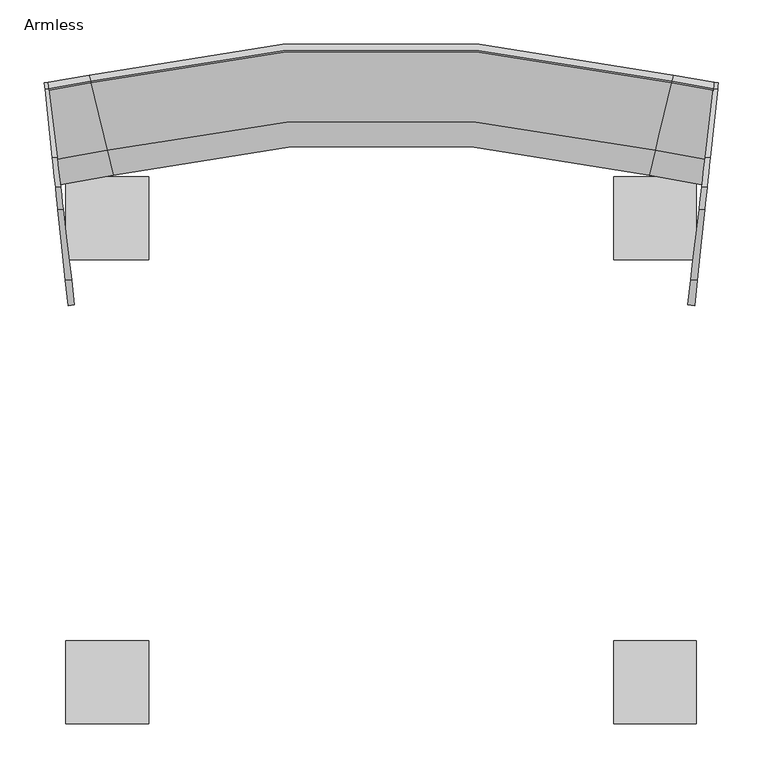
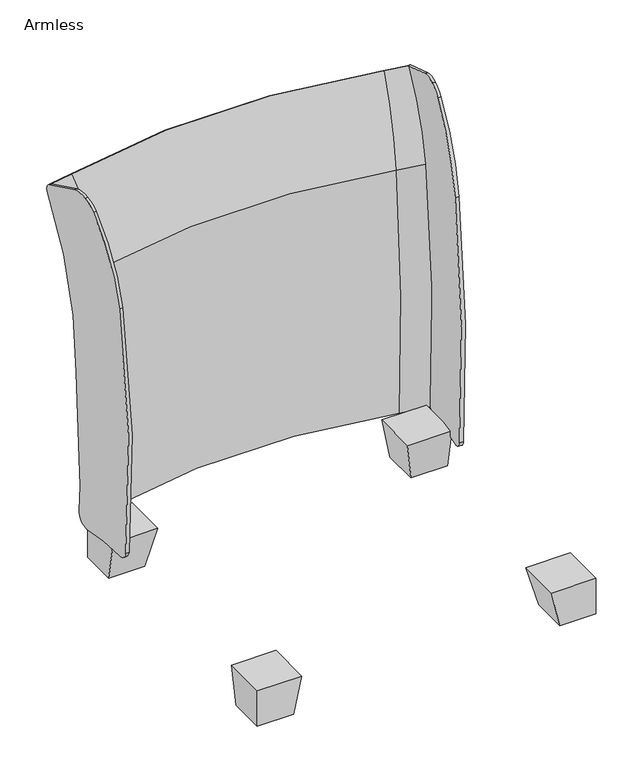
"""IFC4 building model written with IfcOpenShell, lengths in millimetres: furniture geometry, Steelcase Turnstone - Jenny - Seating - Lounge Chair : Armless."""

from ifc_helpers import new_model, si_unit, point, frame, frame_2d, origin, origin_with_axes, place, context, project, spatial, polyline, circle_curve, ellipse_curve, trimmed, segment, composite_curve, outline, extrude, faceted_brep, source, transform, mapped, element, save
from ifc_brep_helpers import plane_surface, revolved_surface, advanced_brep


def armless_b418ea1e(model_context):
    return source(origin(), model_context, "Body", "SolidModel", [
        extrude(outline(composite_curve([segment(trimmed(circle_curve(frame_2d((-317.4695755, 631.5743694)), 14.4058816), [point((-317.4695755, 645.9802509))], [point((-317.4695755, 617.1684878))], False, "CARTESIAN"), True, "CONTINUOUS"), segment(trimmed(circle_curve(frame_2d((-317.4695755, 631.5743694)), 14.4058816), [point((-317.4695755, 617.1684878))], [point((-317.4695755, 645.9802509))], False, "CARTESIAN"), True, "CONTINUOUS")], self_intersect=False)), origin_with_axes(), (0.0, 0.0, 1.0), 7.083069),
        extrude(outline(composite_curve([segment(trimmed(circle_curve(frame_2d((318.3480103, 631.2568742)), 14.4535487), [point((318.3480103, 645.7104229))], [point((318.3480103, 616.8033255))], False, "CARTESIAN"), True, "CONTINUOUS"), segment(trimmed(circle_curve(frame_2d((318.3480103, 631.2568742)), 14.4535487), [point((318.3480103, 616.8033255))], [point((318.3480103, 645.7104229))], False, "CARTESIAN"), True, "CONTINUOUS")], self_intersect=False)), origin_with_axes(), (0.0, 0.0, 1.0), 7.083069),
        faceted_brep([(279.1777267, 593.0641473, 7.083069), (279.1777267, 669.2641473, 7.083069), (355.3777267, 669.2641473, 7.083069), (355.3777267, 593.0641473, 7.083069), (261.9561035, 575.8429601, 95.4116322), (355.3777267, 575.8429601, 95.4116322), (355.3777267, 669.2641473, 95.4116322), (261.9561035, 669.2641473, 95.4116322)], [[[0, 1, 2, 3]], [[4, 5, 6, 7]], [[4, 7, 1, 0]], [[7, 6, 2, 1]], [[6, 5, 3, 2]], [[5, 4, 0, 3]]]),
        faceted_brep([(-279.1777267, 593.0641473, 7.083069), (-355.3777267, 593.0641473, 7.083069), (-355.3777267, 669.2641473, 7.083069), (-279.1777267, 669.2641473, 7.083069), (-261.9561035, 575.8429601, 95.4116322), (-261.9561035, 669.2641473, 95.4116322), (-355.3777267, 669.2641473, 95.4116322), (-355.3777267, 575.8429601, 95.4116322)], [[[0, 1, 2, 3]], [[4, 5, 6, 7]], [[4, 7, 1, 0]], [[7, 6, 2, 1]], [[6, 5, 3, 2]], [[5, 4, 0, 3]]]),
        extrude(outline(composite_curve([segment(trimmed(circle_curve(frame_2d((-317.4695755, 90.6150358)), 14.4058816), [point((-317.4695755, 76.2091543))], [point((-317.4695755, 105.0209174))], False, "CARTESIAN"), True, "CONTINUOUS"), segment(trimmed(circle_curve(frame_2d((-317.4695755, 90.6150358)), 14.4058816), [point((-317.4695755, 105.0209174))], [point((-317.4695755, 76.2091543))], False, "CARTESIAN"), True, "CONTINUOUS")], self_intersect=False)), origin_with_axes(), (0.0, 0.0, 1.0), 7.083069),
        extrude(outline(composite_curve([segment(trimmed(circle_curve(frame_2d((318.3480103, 90.932531)), 14.4535487), [point((318.3480103, 76.4789822))], [point((318.3480103, 105.3860797))], False, "CARTESIAN"), True, "CONTINUOUS"), segment(trimmed(circle_curve(frame_2d((318.3480103, 90.932531)), 14.4535487), [point((318.3480103, 105.3860797))], [point((318.3480103, 76.4789822))], False, "CARTESIAN"), True, "CONTINUOUS")], self_intersect=False)), origin_with_axes(), (0.0, 0.0, 1.0), 7.083069),
        faceted_brep([(279.1777267, 129.1252579, 7.083069), (355.3777267, 129.1252579, 7.083069), (355.3777267, 52.9252579, 7.083069), (279.1777267, 52.9252579, 7.083069), (261.9561035, 146.3464451, 85.2737648), (261.9561035, 52.9252579, 85.2737648), (355.3777267, 52.9252579, 85.2737648), (355.3777267, 146.3464451, 85.2737648)], [[[0, 1, 2, 3]], [[4, 5, 6, 7]], [[4, 7, 1, 0]], [[7, 6, 2, 1]], [[6, 5, 3, 2]], [[5, 4, 0, 3]]]),
        faceted_brep([(-279.1777267, 129.1252579, 7.083069), (-279.1777267, 52.9252579, 7.083069), (-355.3777267, 52.9252579, 7.083069), (-355.3777267, 129.1252579, 7.083069), (-261.9561035, 146.3464451, 85.2737648), (-355.3777267, 146.3464451, 85.2737648), (-355.3777267, 52.9252579, 85.2737648), (-261.9561035, 52.9252579, 85.2737648)], [[[0, 1, 2, 3]], [[4, 5, 6, 7]], [[4, 7, 1, 0]], [[7, 6, 2, 1]], [[6, 5, 3, 2]], [[5, 4, 0, 3]]]),
        advanced_brep(
        [(-365.0328558, 688.9118721, 614.3798536), (-374.2086501, 766.5758751, 782.0850534), (-374.4577532, 768.6842856, 781.0193185), (-375.0846857, 773.9906478, 763.3929272), (-364.7240839, 686.2984239, 412.1857232), (-363.5844919, 676.6529077, 226.5942002), (-363.549176, 676.3539931, 111.3923483), (-362.6401057, 668.6596146, 90.0869227), (-327.0674538, 775.0009474, 782.0850534), (-308.774252, 698.9664071, 614.3798536), (-327.5640748, 777.0651215, 781.0193185), (-328.8139506, 782.2601513, 763.3929272), (-308.1586729, 696.4077914, 412.1857232), (-305.8867403, 686.964647, 226.5942002), (-305.8163331, 686.6720039, 111.3923483), (-304.0039772, 679.1390607, 90.0869227), (327.0674538, 775.0009474, 782.0850534), (308.774252, 698.9664071, 614.3798536), (327.5640748, 777.0651215, 781.0193185), (328.8139506, 782.2601513, 763.3929272), (308.1586729, 696.4077914, 412.1857232), (305.8867403, 686.964647, 226.5942002), (305.8163331, 686.6720039, 111.3923483), (304.0039772, 679.1390607, 90.0869227), (365.0328558, 688.9118721, 614.3798536), (362.6401057, 668.6596146, 90.0869227), (363.549176, 676.3539931, 111.3923483), (363.5844919, 676.6529077, 226.5942002), (364.7240839, 686.2984239, 412.1857232), (375.0846857, 773.9906478, 763.3929272), (374.4577532, 768.6842856, 781.0193185), (374.2086501, 766.5758751, 782.0850534)],
        [
            (0, 1, circle_curve(frame((-406.9820142, 1043.9699138, 549.7445151), z_axis=(-0.9930928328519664, -0.11733126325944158, 0.0), x_axis=(-0.11733126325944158, 0.9930928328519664, 0.0)), 363.3230957)),
            (1, 2),
            (2, 3, circle_curve(frame((-373.7892515, 763.0260816, 769.6690835), z_axis=(-0.9930928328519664, -0.11733126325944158, 0.0), x_axis=(-0.11733126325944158, 0.9930928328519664, 0.0)), 12.7)),
            (3, 4, circle_curve(frame((-444.1840732, 1358.8484643, 428.618251), z_axis=(0.9930928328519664, 0.11733126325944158, 0.0), x_axis=(-0.11733126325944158, 0.9930928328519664, 0.0)), 677.4270991)),
            (4, 5, circle_curve(frame((-222.1914301, -520.0991972, 382.7096079), z_axis=(-0.9930928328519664, -0.11733126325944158, 0.0), x_axis=(-0.11733126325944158, 0.9930928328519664, 0.0)), 1215.145925)),
            (5, 6, circle_curve(frame((-416.8275775, 1127.3028473, 167.8072561), z_axis=(0.9930928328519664, 0.11733126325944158, 0.0), x_axis=(-0.11733126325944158, 0.9930928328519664, 0.0)), 457.5763313)),
            (6, 7, circle_curve(frame((-360.6485798, 651.8033223, 108.3209937), z_axis=(-0.9930928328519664, -0.11733126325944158, 0.0), x_axis=(-0.11733126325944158, 0.9930928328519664, 0.0)), 24.9114856)),
            (7, 0, circle_curve(frame((-582.1375659, 2526.4880272, 279.8645269), z_axis=(-0.9930928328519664, -0.11733126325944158, 0.0), x_axis=(-0.11733126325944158, 0.9930928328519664, 0.0)), 1880.3513194)),
            (8, 1, circle_curve(frame((-421.6517332, 1168.1345426, 782.0850534), z_axis=(0.0, 0.0, -1.0), x_axis=(0.1173312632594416, -0.9930928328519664, 0.0)), 404.3515915)),
            (0, 9, circle_curve(frame((-421.6517332, 1168.1345426, 614.3798536), z_axis=(0.0, 0.0, 1.0), x_axis=(0.1173312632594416, -0.9930928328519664, 0.0)), 482.5557637)),
            (9, 8, circle_curve(frame((-392.4056407, 1046.5750026, 549.7445151), z_axis=(-0.9722568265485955, -0.2339159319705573, 0.0), x_axis=(-0.2339159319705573, 0.9722568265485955, 0.0)), 363.3230957)),
            (10, 2, circle_curve(frame((-421.6517332, 1168.1345426, 781.0193185), z_axis=(0.0, 0.0, -1.0), x_axis=(0.1173312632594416, -0.9930928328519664, 0.0)), 402.2285166)),
            (8, 10),
            (11, 3, circle_curve(frame((-421.6517332, 1168.1345426, 763.3929272), z_axis=(0.0, 0.0, -1.0), x_axis=(0.1173312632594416, -0.9930928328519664, 0.0)), 396.8852475)),
            (10, 11, circle_curve(frame((-326.2313253, 771.5256318, 769.6690835), z_axis=(-0.9722568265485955, -0.23391593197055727, 0.0), x_axis=(-0.23391593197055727, 0.9722568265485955, 0.0)), 12.7)),
            (12, 4, circle_curve(frame((-421.6517332, 1168.1345426, 412.1857232), z_axis=(0.0, 0.0, -1.0), x_axis=(0.1173312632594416, -0.9930928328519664, 0.0)), 485.187389)),
            (11, 12, circle_curve(frame((-466.5730368, 1354.8471098, 428.618251), z_axis=(0.9722568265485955, 0.23391593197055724, 0.0), x_axis=(-0.23391593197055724, 0.9722568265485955, 0.0)), 677.4270991)),
            (13, 5, circle_curve(frame((-421.6517332, 1168.1345426, 226.5942002), z_axis=(0.0, 0.0, -1.0), x_axis=(0.1173312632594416, -0.9930928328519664, 0.0)), 494.8999918)),
            (12, 13, circle_curve(frame((-24.0003198, -484.6784917, 382.7096079), z_axis=(-0.9722568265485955, -0.23391593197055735, 0.0), x_axis=(-0.23391593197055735, 0.9722568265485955, 0.0)), 1215.145925)),
            (14, 6, circle_curve(frame((-421.6517332, 1168.1345426, 111.3923483), z_axis=(0.0, 0.0, -1.0), x_axis=(0.1173312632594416, -0.9930928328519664, 0.0)), 495.2009855)),
            (13, 14, circle_curve(frame((-412.0341186, 1128.159534, 167.8072561), z_axis=(0.9722568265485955, 0.23391593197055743, 0.0), x_axis=(-0.23391593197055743, 0.9722568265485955, 0.0)), 457.5763313)),
            (15, 7, circle_curve(frame((-421.6517332, 1168.1345426, 90.0869227), z_axis=(0.0, 0.0, -1.0), x_axis=(0.1173312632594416, -0.9930928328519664, 0.0)), 502.9488799)),
            (14, 15, circle_curve(frame((-300.0335978, 662.6364289, 108.3209937), z_axis=(-0.9722568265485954, -0.2339159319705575, 0.0), x_axis=(-0.2339159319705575, 0.9722568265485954, 0.0)), 24.9114856)),
            (15, 9, circle_curve(frame((-741.6022058, 2497.9885145, 279.8645269), z_axis=(-0.9722568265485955, -0.23391593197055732, 0.0), x_axis=(-0.23391593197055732, 0.9722568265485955, 0.0)), 1880.3513194)),
            (16, 8, circle_curve(frame((0.0, -584.4343079, 782.0850534), z_axis=(0.0, 0.0, 1.0), x_axis=(-0.23391593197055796, 0.9722568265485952, 0.0)), 1398.2264955)),
            (9, 17, circle_curve(frame((0.0, -584.4343079, 614.3798536), z_axis=(0.0, 0.0, -1.0), x_axis=(-0.23391593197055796, 0.9722568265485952, 0.0)), 1320.0223232)),
            (17, 16, circle_curve(frame((392.4056407, 1046.5750026, 549.7445151), z_axis=(-0.972256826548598, 0.23391593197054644, 0.0), x_axis=(0.23391593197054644, 0.972256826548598, 0.0)), 363.3230957)),
            (18, 10, circle_curve(frame((0.0, -584.4343079, 781.0193185), z_axis=(0.0, 0.0, 1.0), x_axis=(-0.23391593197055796, 0.9722568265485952, 0.0)), 1400.3495704)),
            (16, 18),
            (19, 11, circle_curve(frame((0.0, -584.4343079, 763.3929272), z_axis=(0.0, 0.0, 1.0), x_axis=(-0.23391593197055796, 0.9722568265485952, 0.0)), 1405.6928394)),
            (18, 19, circle_curve(frame((326.2313253, 771.5256318, 769.6690835), z_axis=(-0.9722568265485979, 0.233915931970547, 0.0), x_axis=(0.233915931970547, 0.9722568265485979, 0.0)), 12.7)),
            (20, 12, circle_curve(frame((0.0, -584.4343079, 412.1857232), z_axis=(0.0, 0.0, 1.0), x_axis=(-0.23391593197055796, 0.9722568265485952, 0.0)), 1317.3906979)),
            (19, 20, circle_curve(frame((466.5730368, 1354.8471098, 428.618251), z_axis=(0.9722568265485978, -0.2339159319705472, 0.0), x_axis=(0.2339159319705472, 0.9722568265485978, 0.0)), 677.4270991)),
            (21, 13, circle_curve(frame((0.0, -584.4343079, 226.5942002), z_axis=(0.0, 0.0, 1.0), x_axis=(-0.23391593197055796, 0.9722568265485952, 0.0)), 1307.6780951)),
            (20, 21, circle_curve(frame((24.0003198, -484.6784917, 382.7096079), z_axis=(-0.972256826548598, 0.2339159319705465, 0.0), x_axis=(0.2339159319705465, 0.972256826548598, 0.0)), 1215.145925)),
            (22, 14, circle_curve(frame((0.0, -584.4343079, 111.3923483), z_axis=(0.0, 0.0, 1.0), x_axis=(-0.23391593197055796, 0.9722568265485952, 0.0)), 1307.3771015)),
            (21, 22, circle_curve(frame((412.0341186, 1128.159534, 167.8072561), z_axis=(0.972256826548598, -0.2339159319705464, 0.0), x_axis=(0.2339159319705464, 0.972256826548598, 0.0)), 457.5763313)),
            (23, 15, circle_curve(frame((0.0, -584.4343079, 90.0869227), z_axis=(0.0, 0.0, 1.0), x_axis=(-0.23391593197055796, 0.9722568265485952, 0.0)), 1299.629207)),
            (22, 23, circle_curve(frame((300.0335978, 662.6364289, 108.3209937), z_axis=(-0.972256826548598, 0.2339159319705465, 0.0), x_axis=(0.2339159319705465, 0.972256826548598, 0.0)), 24.9114856)),
            (23, 17, circle_curve(frame((741.6022058, 2497.9885145, 279.8645269), z_axis=(-0.9722568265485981, 0.23391593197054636, 0.0), x_axis=(0.23391593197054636, 0.9722568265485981, 0.0)), 1880.3513194)),
            (24, 25, circle_curve(frame((582.1375659, 2526.4880272, 279.8645269), z_axis=(0.9930928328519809, -0.11733126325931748, 0.0), x_axis=(0.11733126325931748, 0.9930928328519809, 0.0)), 1880.3513194)),
            (25, 26, circle_curve(frame((360.6485798, 651.8033223, 108.3209937), z_axis=(0.9930928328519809, -0.11733126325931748, 0.0), x_axis=(0.11733126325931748, 0.9930928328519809, 0.0)), 24.9114856)),
            (26, 27, circle_curve(frame((416.8275775, 1127.3028473, 167.8072561), z_axis=(-0.9930928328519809, 0.11733126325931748, 0.0), x_axis=(0.11733126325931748, 0.9930928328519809, 0.0)), 457.5763313)),
            (27, 28, circle_curve(frame((222.1914301, -520.0991972, 382.7096079), z_axis=(0.9930928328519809, -0.11733126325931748, 0.0), x_axis=(0.11733126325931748, 0.9930928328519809, 0.0)), 1215.145925)),
            (28, 29, circle_curve(frame((444.1840732, 1358.8484643, 428.618251), z_axis=(-0.9930928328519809, 0.11733126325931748, 0.0), x_axis=(0.11733126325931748, 0.9930928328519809, 0.0)), 677.4270991)),
            (29, 30, circle_curve(frame((373.7892515, 763.0260816, 769.6690835), z_axis=(0.9930928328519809, -0.11733126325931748, 0.0), x_axis=(0.11733126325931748, 0.9930928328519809, 0.0)), 12.7)),
            (30, 31),
            (31, 24, circle_curve(frame((406.9820142, 1043.9699138, 549.7445151), z_axis=(0.9930928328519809, -0.11733126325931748, 0.0), x_axis=(0.11733126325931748, 0.9930928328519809, 0.0)), 363.3230957)),
            (31, 16, circle_curve(frame((421.6517332, 1168.1345426, 782.0850534), z_axis=(0.0, 0.0, -1.0), x_axis=(-0.2339159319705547, -0.972256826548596, 0.0)), 404.3515915)),
            (17, 24, circle_curve(frame((421.6517332, 1168.1345426, 614.3798536), z_axis=(0.0, 0.0, 1.0), x_axis=(-0.2339159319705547, -0.972256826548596, 0.0)), 482.5557637)),
            (30, 18, circle_curve(frame((421.6517332, 1168.1345426, 781.0193185), z_axis=(0.0, 0.0, -1.0), x_axis=(-0.2339159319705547, -0.972256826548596, 0.0)), 402.2285166)),
            (29, 19, circle_curve(frame((421.6517332, 1168.1345426, 763.3929272), z_axis=(0.0, 0.0, -1.0), x_axis=(-0.2339159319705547, -0.972256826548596, 0.0)), 396.8852475)),
            (28, 20, circle_curve(frame((421.6517332, 1168.1345426, 412.1857232), z_axis=(0.0, 0.0, -1.0), x_axis=(-0.2339159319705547, -0.972256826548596, 0.0)), 485.187389)),
            (27, 21, circle_curve(frame((421.6517332, 1168.1345426, 226.5942002), z_axis=(0.0, 0.0, -1.0), x_axis=(-0.2339159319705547, -0.972256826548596, 0.0)), 494.8999918)),
            (26, 22, circle_curve(frame((421.6517332, 1168.1345426, 111.3923483), z_axis=(0.0, 0.0, -1.0), x_axis=(-0.2339159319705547, -0.972256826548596, 0.0)), 495.2009855)),
            (25, 23, circle_curve(frame((421.6517332, 1168.1345426, 90.0869227), z_axis=(0.0, 0.0, -1.0), x_axis=(-0.2339159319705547, -0.972256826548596, 0.0)), 502.9488799)),
        ],
        [
            plane_surface(frame((-355.6, 609.0720985, 0.0), z_axis=(-0.9930928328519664, -0.1173312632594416, 0.0), x_axis=(0.0, 0.0, 1.0))),
            revolved_surface(trimmed(ellipse_curve(frame((-406.9820142, 1043.9699138, 549.7445151), z_axis=(-0.9930928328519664, -0.11733126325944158, 0.0), x_axis=(-0.11733126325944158, 0.9930928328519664, 0.0)), 363.3230957, 363.3230957), [point((-365.0328558, 688.9118721, 614.3798536))], [point((-374.2086501, 766.5758751, 782.0850534))], True, "CARTESIAN"), (-421.6517332, 1168.1345426, 0.0), (0.0, 0.0, 1.0)),
            revolved_surface(polyline([(-374.2086501, 766.5758751, 782.0850534), (-374.4577532, 768.6842856, 781.0193185)]), (-421.6517332, 1168.1345426, 0.0), (0.0, 0.0, 1.0)),
            revolved_surface(trimmed(ellipse_curve(frame((-373.7892515, 763.0260816, 769.6690835), z_axis=(-0.9930928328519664, -0.11733126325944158, 0.0), x_axis=(-0.11733126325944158, 0.9930928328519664, 0.0)), 12.7, 12.7), [point((-374.4577532, 768.6842856, 781.0193185))], [point((-375.0846857, 773.9906478, 763.3929272))], True, "CARTESIAN"), (-421.6517332, 1168.1345426, 0.0), (0.0, 0.0, 1.0)),
            revolved_surface(trimmed(ellipse_curve(frame((-444.1840732, 1358.8484643, 428.618251), z_axis=(0.9930928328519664, 0.11733126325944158, 0.0), x_axis=(-0.11733126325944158, 0.9930928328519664, 0.0)), 677.4270991, 677.4270991), [point((-375.0846857, 773.9906478, 763.3929272))], [point((-364.7240839, 686.2984239, 412.1857232))], True, "CARTESIAN"), (-421.6517332, 1168.1345426, 0.0), (0.0, 0.0, 1.0)),
            revolved_surface(trimmed(ellipse_curve(frame((-222.1914301, -520.0991972, 382.7096079), z_axis=(-0.9930928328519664, -0.11733126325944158, 0.0), x_axis=(-0.11733126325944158, 0.9930928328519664, 0.0)), 1215.145925, 1215.145925), [point((-364.7240839, 686.2984239, 412.1857232))], [point((-363.5844919, 676.6529077, 226.5942002))], True, "CARTESIAN"), (-421.6517332, 1168.1345426, 0.0), (0.0, 0.0, 1.0)),
            revolved_surface(trimmed(ellipse_curve(frame((-416.8275775, 1127.3028473, 167.8072561), z_axis=(0.9930928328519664, 0.11733126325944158, 0.0), x_axis=(-0.11733126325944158, 0.9930928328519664, 0.0)), 457.5763313, 457.5763313), [point((-363.5844919, 676.6529077, 226.5942002))], [point((-363.549176, 676.3539931, 111.3923483))], True, "CARTESIAN"), (-421.6517332, 1168.1345426, 0.0), (0.0, 0.0, 1.0)),
            revolved_surface(trimmed(ellipse_curve(frame((-360.6485798, 651.8033223, 108.3209937), z_axis=(-0.9930928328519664, -0.11733126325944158, 0.0), x_axis=(-0.11733126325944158, 0.9930928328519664, 0.0)), 24.9114856, 24.9114856), [point((-363.549176, 676.3539931, 111.3923483))], [point((-362.6401057, 668.6596146, 90.0869227))], True, "CARTESIAN"), (-421.6517332, 1168.1345426, 0.0), (0.0, 0.0, 1.0)),
            revolved_surface(trimmed(ellipse_curve(frame((-582.1375659, 2526.4880272, 279.8645269), z_axis=(-0.9930928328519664, -0.11733126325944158, 0.0), x_axis=(-0.11733126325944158, 0.9930928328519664, 0.0)), 1880.3513194, 1880.3513194), [point((-362.6401057, 668.6596146, 90.0869227))], [point((-365.0328558, 688.9118721, 614.3798536))], True, "CARTESIAN"), (-421.6517332, 1168.1345426, 0.0), (0.0, 0.0, 1.0)),
            revolved_surface(trimmed(ellipse_curve(frame((-392.4056407, 1046.5750026, 549.7445151), z_axis=(-0.9722568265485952, -0.23391593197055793, 0.0), x_axis=(-0.23391593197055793, 0.9722568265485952, 0.0)), 363.3230957, 363.3230957), [point((-308.774252, 698.9664071, 614.3798536))], [point((-327.0674538, 775.0009474, 782.0850534))], True, "CARTESIAN"), (0.0, -584.4343079, 0.0), (0.0, 0.0, -1.0)),
            revolved_surface(polyline([(-327.0674538, 775.0009474, 782.0850534), (-327.5640748, 777.0651215, 781.0193185)]), (0.0, -584.4343079, 0.0), (0.0, 0.0, -1.0)),
            revolved_surface(trimmed(ellipse_curve(frame((-326.2313253, 771.5256318, 769.6690835), z_axis=(-0.9722568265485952, -0.23391593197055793, 0.0), x_axis=(-0.23391593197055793, 0.9722568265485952, 0.0)), 12.7, 12.7), [point((-327.5640748, 777.0651215, 781.0193185))], [point((-328.8139506, 782.2601513, 763.3929272))], True, "CARTESIAN"), (0.0, -584.4343079, 0.0), (0.0, 0.0, -1.0)),
            revolved_surface(trimmed(ellipse_curve(frame((-466.5730368, 1354.8471098, 428.618251), z_axis=(0.9722568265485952, 0.23391593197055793, 0.0), x_axis=(-0.23391593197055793, 0.9722568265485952, 0.0)), 677.4270991, 677.4270991), [point((-328.8139506, 782.2601513, 763.3929272))], [point((-308.1586729, 696.4077914, 412.1857232))], True, "CARTESIAN"), (0.0, -584.4343079, 0.0), (0.0, 0.0, -1.0)),
            revolved_surface(trimmed(ellipse_curve(frame((-24.0003198, -484.6784917, 382.7096079), z_axis=(-0.9722568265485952, -0.23391593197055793, 0.0), x_axis=(-0.23391593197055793, 0.9722568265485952, 0.0)), 1215.145925, 1215.145925), [point((-308.1586729, 696.4077914, 412.1857232))], [point((-305.8867403, 686.964647, 226.5942002))], True, "CARTESIAN"), (0.0, -584.4343079, 0.0), (0.0, 0.0, -1.0)),
            revolved_surface(trimmed(ellipse_curve(frame((-412.0341186, 1128.159534, 167.8072561), z_axis=(0.9722568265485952, 0.23391593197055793, 0.0), x_axis=(-0.23391593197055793, 0.9722568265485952, 0.0)), 457.5763313, 457.5763313), [point((-305.8867403, 686.964647, 226.5942002))], [point((-305.8163331, 686.6720039, 111.3923483))], True, "CARTESIAN"), (0.0, -584.4343079, 0.0), (0.0, 0.0, -1.0)),
            revolved_surface(trimmed(ellipse_curve(frame((-300.0335978, 662.6364289, 108.3209937), z_axis=(-0.9722568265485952, -0.23391593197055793, 0.0), x_axis=(-0.23391593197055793, 0.9722568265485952, 0.0)), 24.9114856, 24.9114856), [point((-305.8163331, 686.6720039, 111.3923483))], [point((-304.0039772, 679.1390607, 90.0869227))], True, "CARTESIAN"), (0.0, -584.4343079, 0.0), (0.0, 0.0, -1.0)),
            revolved_surface(trimmed(ellipse_curve(frame((-741.6022058, 2497.9885145, 279.8645269), z_axis=(-0.9722568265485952, -0.23391593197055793, 0.0), x_axis=(-0.23391593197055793, 0.9722568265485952, 0.0)), 1880.3513194, 1880.3513194), [point((-304.0039772, 679.1390607, 90.0869227))], [point((-308.774252, 698.9664071, 614.3798536))], True, "CARTESIAN"), (0.0, -584.4343079, 0.0), (0.0, 0.0, -1.0)),
            plane_surface(frame((355.6, 609.0720985, 0.0), z_axis=(0.993092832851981, -0.11733126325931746, 0.0), x_axis=(0.0, 0.0, 1.0))),
            revolved_surface(trimmed(ellipse_curve(frame((392.4056407, 1046.5750026, 549.7445151), z_axis=(-0.972256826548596, 0.2339159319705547, 0.0), x_axis=(0.2339159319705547, 0.972256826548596, 0.0)), 363.3230957, 363.3230957), [point((308.774252, 698.9664071, 614.3798536))], [point((327.0674538, 775.0009474, 782.0850534))], True, "CARTESIAN"), (421.6517332, 1168.1345426, 0.0), (0.0, 0.0, 1.0)),
            revolved_surface(polyline([(327.0674538, 775.0009474, 782.0850534), (327.5640748, 777.0651215, 781.0193185)]), (421.6517332, 1168.1345426, 0.0), (0.0, 0.0, 1.0)),
            revolved_surface(trimmed(ellipse_curve(frame((326.2313253, 771.5256318, 769.6690835), z_axis=(-0.972256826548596, 0.2339159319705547, 0.0), x_axis=(0.2339159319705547, 0.972256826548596, 0.0)), 12.7, 12.7), [point((327.5640748, 777.0651215, 781.0193185))], [point((328.8139506, 782.2601513, 763.3929272))], True, "CARTESIAN"), (421.6517332, 1168.1345426, 0.0), (0.0, 0.0, 1.0)),
            revolved_surface(trimmed(ellipse_curve(frame((466.5730368, 1354.8471098, 428.618251), z_axis=(0.972256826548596, -0.2339159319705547, 0.0), x_axis=(0.2339159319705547, 0.972256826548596, 0.0)), 677.4270991, 677.4270991), [point((328.8139506, 782.2601513, 763.3929272))], [point((308.1586729, 696.4077914, 412.1857232))], True, "CARTESIAN"), (421.6517332, 1168.1345426, 0.0), (0.0, 0.0, 1.0)),
            revolved_surface(trimmed(ellipse_curve(frame((24.0003198, -484.6784917, 382.7096079), z_axis=(-0.972256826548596, 0.2339159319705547, 0.0), x_axis=(0.2339159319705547, 0.972256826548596, 0.0)), 1215.145925, 1215.145925), [point((308.1586729, 696.4077914, 412.1857232))], [point((305.8867403, 686.964647, 226.5942002))], True, "CARTESIAN"), (421.6517332, 1168.1345426, 0.0), (0.0, 0.0, 1.0)),
            revolved_surface(trimmed(ellipse_curve(frame((412.0341186, 1128.159534, 167.8072561), z_axis=(0.972256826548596, -0.2339159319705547, 0.0), x_axis=(0.2339159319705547, 0.972256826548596, 0.0)), 457.5763313, 457.5763313), [point((305.8867403, 686.964647, 226.5942002))], [point((305.8163331, 686.6720039, 111.3923483))], True, "CARTESIAN"), (421.6517332, 1168.1345426, 0.0), (0.0, 0.0, 1.0)),
            revolved_surface(trimmed(ellipse_curve(frame((300.0335978, 662.6364289, 108.3209937), z_axis=(-0.972256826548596, 0.2339159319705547, 0.0), x_axis=(0.2339159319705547, 0.972256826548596, 0.0)), 24.9114856, 24.9114856), [point((305.8163331, 686.6720039, 111.3923483))], [point((304.0039772, 679.1390607, 90.0869227))], True, "CARTESIAN"), (421.6517332, 1168.1345426, 0.0), (0.0, 0.0, 1.0)),
            revolved_surface(trimmed(ellipse_curve(frame((741.6022058, 2497.9885145, 279.8645269), z_axis=(-0.972256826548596, 0.2339159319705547, 0.0), x_axis=(0.2339159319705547, 0.972256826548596, 0.0)), 1880.3513194, 1880.3513194), [point((304.0039772, 679.1390607, 90.0869227))], [point((308.774252, 698.9664071, 614.3798536))], True, "CARTESIAN"), (421.6517332, 1168.1345426, 0.0), (0.0, 0.0, 1.0)),
        ],
        [
            (0, [[1, 2, 3, 4, 5, 6, 7, 8]]),
            (1, [[9, -1, 10, 11]]),
            (2, [[12, -2, -9, 13]]),
            (3, [[14, -3, -12, 15]]),
            (4, [[16, -4, -14, 17]]),
            (5, [[18, -5, -16, 19]]),
            (6, [[20, -6, -18, 21]]),
            (7, [[22, -7, -20, 23]]),
            (8, [[-10, -8, -22, 24]]),
            (9, [[25, -11, 26, 27]]),
            (10, [[28, -13, -25, 29]]),
            (11, [[30, -15, -28, 31]]),
            (12, [[32, -17, -30, 33]]),
            (13, [[34, -19, -32, 35]]),
            (14, [[36, -21, -34, 37]]),
            (15, [[38, -23, -36, 39]]),
            (16, [[-26, -24, -38, 40]]),
            (17, [[41, 42, 43, 44, 45, 46, 47, 48]]),
            (18, [[49, -27, 50, -48]]),
            (19, [[51, -29, -49, -47]]),
            (20, [[52, -31, -51, -46]]),
            (21, [[53, -33, -52, -45]]),
            (22, [[54, -35, -53, -44]]),
            (23, [[55, -37, -54, -43]]),
            (24, [[56, -39, -55, -42]]),
            (25, [[-50, -40, -56, -41]]),
        ],
    ),
        advanced_brep(
        [(371.0231422, 690.4168678, 813.9027777), (367.5078894, 657.2478941, 814.4538477), (364.8381433, 632.056893, 797.7221008), (356.4068462, 552.5014564, 627.8736036), (354.3284196, 532.8899867, 97.0710008), (356.3949504, 552.3892108, 81.9987921), (366.5367036, 648.0840483, 83.5957513), (369.4625291, 675.6913448, 111.3923483), (369.4942508, 675.9906622, 226.5942002), (370.5178614, 685.6491753, 412.1857232), (379.8240192, 773.4595598, 763.3929272), (379.2608923, 768.1460475, 781.0193185), (365.286616, 691.0597009, 813.9027777), (374.4577532, 768.6842856, 781.0193185), (375.0846857, 773.9906478, 763.3929272), (364.7240839, 686.2984239, 412.1857232), (363.5844919, 676.6529077, 226.5942002), (363.549176, 676.3539931, 111.3923483), (360.2918368, 648.7838459, 83.5957513), (349.0009614, 553.2177786, 81.9987921), (346.7002803, 533.7447933, 97.0710008), (349.0142051, 553.3298731, 627.8736036), (358.4008193, 632.7782572, 797.7221008), (361.3730638, 657.9353605, 814.4538477)],
        [
            (0, 1, circle_curve(frame((369.1763053, 672.9906155, 762.9432742), z_axis=(0.9944309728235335, -0.10538994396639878, 0.0), x_axis=(-0.10538994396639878, -0.9944309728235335, 0.0)), 53.8883667)),
            (1, 2, circle_curve(frame((369.1763053, 672.9906155, 762.9432742), z_axis=(0.9944309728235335, -0.10538994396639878, 0.0), x_axis=(-0.10538994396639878, -0.9944309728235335, 0.0)), 53.8883667)),
            (2, 3, circle_curve(frame((394.086654, 908.03792, 563.2382651), z_axis=(0.9944309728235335, -0.10538994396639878, 0.0), x_axis=(-0.10538994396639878, -0.9944309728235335, 0.0)), 363.3230957)),
            (3, 4, circle_curve(frame((551.415854, 2392.5536479, 293.3582769), z_axis=(0.9944309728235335, -0.10538994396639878, 0.0), x_axis=(-0.10538994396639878, -0.9944309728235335, 0.0)), 1880.3513194)),
            (4, 5, circle_curve(frame((356.1164347, 549.7612128, 98.8517567), z_axis=(0.9944309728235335, -0.10538994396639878, 0.0), x_axis=(-0.10538994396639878, -0.9944309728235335, 0.0)), 17.0589085)),
            (5, 6, circle_curve(frame((362.0675508, 605.9143321, -261.2499371), z_axis=(-0.9944309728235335, 0.10538994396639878, 0.0), x_axis=(-0.10538994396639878, -0.9944309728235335, 0.0)), 347.443243)),
            (6, 7, circle_curve(frame((366.8571394, 651.1075933, 108.3209937), z_axis=(0.9944309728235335, -0.10538994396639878, 0.0), x_axis=(-0.10538994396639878, -0.9944309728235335, 0.0)), 24.9114856)),
            (7, 8, circle_curve(frame((417.3185531, 1127.2478287, 167.8072561), z_axis=(-0.9944309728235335, 0.10538994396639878, 0.0), x_axis=(-0.10538994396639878, -0.9944309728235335, 0.0)), 457.5763313)),
            (8, 9, circle_curve(frame((242.4913834, -522.3740028, 382.7096079), z_axis=(0.9944309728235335, -0.10538994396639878, 0.0), x_axis=(-0.10538994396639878, -0.9944309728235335, 0.0)), 1215.145925)),
            (9, 10, circle_curve(frame((441.8908577, 1359.1054412, 428.618251), z_axis=(-0.9944309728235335, 0.10538994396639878, 0.0), x_axis=(-0.10538994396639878, -0.9944309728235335, 0.0)), 677.4270991)),
            (10, 11, circle_curve(frame((378.660427, 762.4802194, 769.6690835), z_axis=(0.9944309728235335, -0.10538994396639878, 0.0), x_axis=(-0.10538994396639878, -0.9944309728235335, 0.0)), 12.7)),
            (11, 0, circle_curve(frame((349.3215569, 485.6465852, 215.0940543), z_axis=(0.9944309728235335, -0.10538994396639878, 0.0), x_axis=(-0.10538994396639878, -0.9944309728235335, 0.0)), 633.2248531)),
            (12, 13, circle_curve(frame((341.1261096, 486.5649641, 215.0940543), z_axis=(-0.9930928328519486, 0.11733126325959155, 0.0), x_axis=(-0.11733126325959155, -0.9930928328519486, 0.0)), 633.2248531)),
            (13, 14, circle_curve(frame((373.7892515, 763.0260816, 769.6690835), z_axis=(-0.9930928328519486, 0.11733126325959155, 0.0), x_axis=(-0.11733126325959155, -0.9930928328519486, 0.0)), 12.7)),
            (14, 15, circle_curve(frame((444.1840732, 1358.8484643, 428.618251), z_axis=(0.9930928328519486, -0.11733126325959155, 0.0), x_axis=(-0.11733126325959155, -0.9930928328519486, 0.0)), 677.4270991)),
            (15, 16, circle_curve(frame((222.1914301, -520.0991972, 382.7096079), z_axis=(-0.9930928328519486, 0.11733126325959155, 0.0), x_axis=(-0.11733126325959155, -0.9930928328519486, 0.0)), 1215.145925)),
            (16, 17, circle_curve(frame((416.8275775, 1127.3028473, 167.8072561), z_axis=(0.9930928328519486, -0.11733126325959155, 0.0), x_axis=(-0.11733126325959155, -0.9930928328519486, 0.0)), 457.5763313)),
            (17, 18, circle_curve(frame((360.6485798, 651.8033223, 108.3209937), z_axis=(-0.9930928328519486, 0.11733126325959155, 0.0), x_axis=(-0.11733126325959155, -0.9930928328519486, 0.0)), 24.9114856)),
            (18, 19, circle_curve(frame((355.3163018, 606.6708747, -261.2499371), z_axis=(0.9930928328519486, -0.11733126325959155, 0.0), x_axis=(-0.11733126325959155, -0.9930928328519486, 0.0)), 347.443243)),
            (19, 20, circle_curve(frame((348.6908883, 550.5933169, 98.8517567), z_axis=(-0.9930928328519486, 0.11733126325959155, 0.0), x_axis=(-0.11733126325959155, -0.9930928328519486, 0.0)), 17.0589085)),
            (20, 21, circle_curve(frame((566.1189152, 2390.9060281, 293.3582769), z_axis=(-0.9930928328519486, 0.11733126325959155, 0.0), x_axis=(-0.11733126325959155, -0.9930928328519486, 0.0)), 1880.3513194)),
            (21, 22, circle_curve(frame((390.9633635, 908.3879148, 563.2382651), z_axis=(-0.9930928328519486, 0.11733126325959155, 0.0), x_axis=(-0.11733126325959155, -0.9930928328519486, 0.0)), 363.3230957)),
            (22, 23, circle_curve(frame((363.2305214, 673.6568979, 762.9432742), z_axis=(-0.9930928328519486, 0.11733126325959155, 0.0), x_axis=(-0.11733126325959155, -0.9930928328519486, 0.0)), 53.8883667)),
            (23, 12, circle_curve(frame((363.2305214, 673.6568979, 762.9432742), z_axis=(-0.9930928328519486, 0.11733126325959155, 0.0), x_axis=(-0.11733126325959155, -0.9930928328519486, 0.0)), 53.8883667)),
            (23, 1, circle_curve(frame((421.6517332, 1168.1345426, 814.4538477), z_axis=(0.0, 0.0, 1.0), x_axis=(-0.10538994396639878, -0.9944309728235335, 0.0)), 513.7477235)),
            (0, 12, circle_curve(frame((421.6517332, 1168.1345426, 813.9027777), z_axis=(0.0, 0.0, -1.0), x_axis=(-0.10538994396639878, -0.9944309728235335, 0.0)), 480.3929964)),
            (22, 2, circle_curve(frame((421.6517332, 1168.1345426, 797.7221008), z_axis=(0.0, 0.0, 1.0), x_axis=(-0.10538994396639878, -0.9944309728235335, 0.0)), 539.0797997)),
            (21, 3, circle_curve(frame((421.6517332, 1168.1345426, 627.8736036), z_axis=(0.0, 0.0, 1.0), x_axis=(-0.10538994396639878, -0.9944309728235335, 0.0)), 619.0807637)),
            (20, 4, circle_curve(frame((421.6517332, 1168.1345426, 97.0710008), z_axis=(0.0, 0.0, 1.0), x_axis=(-0.10538994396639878, -0.9944309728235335, 0.0)), 638.8020619)),
            (19, 5, circle_curve(frame((421.6517332, 1168.1345426, 81.9987921), z_axis=(0.0, 0.0, 1.0), x_axis=(-0.10538994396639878, -0.9944309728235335, 0.0)), 619.193638)),
            (18, 6, circle_curve(frame((421.6517332, 1168.1345426, 83.5957513), z_axis=(0.0, 0.0, 1.0), x_axis=(-0.10538994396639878, -0.9944309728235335, 0.0)), 522.9628888)),
            (17, 7, circle_curve(frame((421.6517332, 1168.1345426, 111.3923483), z_axis=(0.0, 0.0, 1.0), x_axis=(-0.10538994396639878, -0.9944309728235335, 0.0)), 495.2009855)),
            (16, 8, circle_curve(frame((421.6517332, 1168.1345426, 226.5942002), z_axis=(0.0, 0.0, 1.0), x_axis=(-0.10538994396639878, -0.9944309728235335, 0.0)), 494.8999918)),
            (15, 9, circle_curve(frame((421.6517332, 1168.1345426, 412.1857232), z_axis=(0.0, 0.0, 1.0), x_axis=(-0.10538994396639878, -0.9944309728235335, 0.0)), 485.187389)),
            (14, 10, circle_curve(frame((421.6517332, 1168.1345426, 763.3929272), z_axis=(0.0, 0.0, 1.0), x_axis=(-0.10538994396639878, -0.9944309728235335, 0.0)), 396.8852475)),
            (13, 11, circle_curve(frame((421.6517332, 1168.1345426, 781.0193185), z_axis=(0.0, 0.0, 1.0), x_axis=(-0.10538994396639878, -0.9944309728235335, 0.0)), 402.2285166)),
        ],
        [
            plane_surface(frame((362.3223757, 608.3187915, 0.0), z_axis=(0.9944309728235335, -0.10538994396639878, 0.0), x_axis=(0.0, 0.0, 1.0))),
            plane_surface(frame((355.6, 609.0720985, 0.0), z_axis=(-0.9930928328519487, 0.11733126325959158, 0.0), x_axis=(0.0, 0.0, 1.0))),
            revolved_surface(trimmed(ellipse_curve(frame((369.1763053, 672.9906155, 762.9432742), z_axis=(0.9944309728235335, -0.10538994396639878, 0.0), x_axis=(-0.10538994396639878, -0.9944309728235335, 0.0)), 53.8883667, 53.8883667), [point((371.0231422, 690.4168678, 813.9027777))], [point((367.5078894, 657.2478941, 814.4538477))], True, "CARTESIAN"), (421.6517332, 1168.1345426, 0.0), (0.0, 0.0, -1.0)),
            revolved_surface(trimmed(ellipse_curve(frame((369.1763053, 672.9906155, 762.9432742), z_axis=(0.9944309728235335, -0.10538994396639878, 0.0), x_axis=(-0.10538994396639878, -0.9944309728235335, 0.0)), 53.8883667, 53.8883667), [point((367.5078894, 657.2478941, 814.4538477))], [point((364.8381433, 632.056893, 797.7221008))], True, "CARTESIAN"), (421.6517332, 1168.1345426, 0.0), (0.0, 0.0, -1.0)),
            revolved_surface(trimmed(ellipse_curve(frame((394.086654, 908.03792, 563.2382651), z_axis=(0.9944309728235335, -0.10538994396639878, 0.0), x_axis=(-0.10538994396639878, -0.9944309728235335, 0.0)), 363.3230957, 363.3230957), [point((364.8381433, 632.056893, 797.7221008))], [point((356.4068462, 552.5014564, 627.8736036))], True, "CARTESIAN"), (421.6517332, 1168.1345426, 0.0), (0.0, 0.0, -1.0)),
            revolved_surface(trimmed(ellipse_curve(frame((551.415854, 2392.5536479, 293.3582769), z_axis=(0.9944309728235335, -0.10538994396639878, 0.0), x_axis=(-0.10538994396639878, -0.9944309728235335, 0.0)), 1880.3513194, 1880.3513194), [point((356.4068462, 552.5014564, 627.8736036))], [point((354.3284196, 532.8899867, 97.0710008))], True, "CARTESIAN"), (421.6517332, 1168.1345426, 0.0), (0.0, 0.0, -1.0)),
            revolved_surface(trimmed(ellipse_curve(frame((356.1164347, 549.7612128, 98.8517567), z_axis=(0.9944309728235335, -0.10538994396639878, 0.0), x_axis=(-0.10538994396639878, -0.9944309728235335, 0.0)), 17.0589085, 17.0589085), [point((354.3284196, 532.8899867, 97.0710008))], [point((356.3949504, 552.3892108, 81.9987921))], True, "CARTESIAN"), (421.6517332, 1168.1345426, 0.0), (0.0, 0.0, -1.0)),
            revolved_surface(trimmed(ellipse_curve(frame((362.0675508, 605.9143321, -261.2499371), z_axis=(-0.9944309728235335, 0.10538994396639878, 0.0), x_axis=(-0.10538994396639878, -0.9944309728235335, 0.0)), 347.443243, 347.443243), [point((356.3949504, 552.3892108, 81.9987921))], [point((366.5367036, 648.0840483, 83.5957513))], True, "CARTESIAN"), (421.6517332, 1168.1345426, 0.0), (0.0, 0.0, -1.0)),
            revolved_surface(trimmed(ellipse_curve(frame((366.8571394, 651.1075933, 108.3209937), z_axis=(0.9944309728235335, -0.10538994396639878, 0.0), x_axis=(-0.10538994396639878, -0.9944309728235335, 0.0)), 24.9114856, 24.9114856), [point((366.5367036, 648.0840483, 83.5957513))], [point((369.4625291, 675.6913448, 111.3923483))], True, "CARTESIAN"), (421.6517332, 1168.1345426, 0.0), (0.0, 0.0, -1.0)),
            revolved_surface(trimmed(ellipse_curve(frame((417.3185531, 1127.2478287, 167.8072561), z_axis=(-0.9944309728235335, 0.10538994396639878, 0.0), x_axis=(-0.10538994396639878, -0.9944309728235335, 0.0)), 457.5763313, 457.5763313), [point((369.4625291, 675.6913448, 111.3923483))], [point((369.4942508, 675.9906622, 226.5942002))], True, "CARTESIAN"), (421.6517332, 1168.1345426, 0.0), (0.0, 0.0, -1.0)),
            revolved_surface(trimmed(ellipse_curve(frame((242.4913834, -522.3740028, 382.7096079), z_axis=(0.9944309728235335, -0.10538994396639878, 0.0), x_axis=(-0.10538994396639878, -0.9944309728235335, 0.0)), 1215.145925, 1215.145925), [point((369.4942508, 675.9906622, 226.5942002))], [point((370.5178614, 685.6491753, 412.1857232))], True, "CARTESIAN"), (421.6517332, 1168.1345426, 0.0), (0.0, 0.0, -1.0)),
            revolved_surface(trimmed(ellipse_curve(frame((441.8908577, 1359.1054412, 428.618251), z_axis=(-0.9944309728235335, 0.10538994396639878, 0.0), x_axis=(-0.10538994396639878, -0.9944309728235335, 0.0)), 677.4270991, 677.4270991), [point((370.5178614, 685.6491753, 412.1857232))], [point((379.8240192, 773.4595598, 763.3929272))], True, "CARTESIAN"), (421.6517332, 1168.1345426, 0.0), (0.0, 0.0, -1.0)),
            revolved_surface(trimmed(ellipse_curve(frame((378.660427, 762.4802194, 769.6690835), z_axis=(0.9944309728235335, -0.10538994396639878, 0.0), x_axis=(-0.10538994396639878, -0.9944309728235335, 0.0)), 12.7, 12.7), [point((379.8240192, 773.4595598, 763.3929272))], [point((379.2608923, 768.1460475, 781.0193185))], True, "CARTESIAN"), (421.6517332, 1168.1345426, 0.0), (0.0, 0.0, -1.0)),
            revolved_surface(trimmed(ellipse_curve(frame((349.3215569, 485.6465852, 215.0940543), z_axis=(0.9944309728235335, -0.10538994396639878, 0.0), x_axis=(-0.10538994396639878, -0.9944309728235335, 0.0)), 633.2248531, 633.2248531), [point((379.2608923, 768.1460475, 781.0193185))], [point((371.0231422, 690.4168678, 813.9027777))], True, "CARTESIAN"), (421.6517332, 1168.1345426, 0.0), (0.0, 0.0, -1.0)),
        ],
        [
            (0, [[1, 2, 3, 4, 5, 6, 7, 8, 9, 10, 11, 12]]),
            (1, [[13, 14, 15, 16, 17, 18, 19, 20, 21, 22, 23, 24]]),
            (2, [[25, -1, 26, -24]]),
            (3, [[27, -2, -25, -23]]),
            (4, [[28, -3, -27, -22]]),
            (5, [[29, -4, -28, -21]]),
            (6, [[30, -5, -29, -20]]),
            (7, [[31, -6, -30, -19]]),
            (8, [[32, -7, -31, -18]]),
            (9, [[33, -8, -32, -17]]),
            (10, [[34, -9, -33, -16]]),
            (11, [[35, -10, -34, -15]]),
            (12, [[36, -11, -35, -14]]),
            (13, [[-26, -12, -36, -13]]),
        ],
    ),
        advanced_brep(
        [(-370.5625529, 690.4659057, 813.9027777), (-378.8752452, 768.1871065, 781.0193185), (-379.4434951, 773.5000733, 763.3929272), (-370.0526753, 685.6987026, 412.1857232), (-369.0197525, 676.041181, 226.5942002), (-368.9877422, 675.7418943, 111.3923483), (-366.0352993, 648.1374317, 83.5957513), (-355.8012823, 552.4524173, 81.9987921), (-353.7159515, 532.9551948, 97.0710008), (-355.8132863, 552.5646514, 627.8736036), (-364.3212864, 632.1119215, 797.7221008), (-367.0153203, 657.3003368, 814.4538477), (-365.286616, 691.0597009, 813.9027777), (-361.3730638, 657.9353605, 814.4538477), (-358.4008193, 632.7782572, 797.7221008), (-349.0142051, 553.3298731, 627.8736036), (-346.7002803, 533.7447933, 97.0710008), (-349.0009614, 553.2177786, 81.9987921), (-360.2918368, 648.7838459, 83.5957513), (-363.549176, 676.3539931, 111.3923483), (-363.5844919, 676.6529077, 226.5942002), (-364.7240839, 686.2984239, 412.1857232), (-375.0846857, 773.9906478, 763.3929272), (-374.4577532, 768.6842856, 781.0193185)],
        [
            (0, 1, circle_curve(frame((-348.6635392, 485.7166429, 215.0940543), z_axis=(-0.9943288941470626, -0.10634872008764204, 0.0), x_axis=(-0.10634872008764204, 0.9943288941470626, 0.0)), 633.2248531)),
            (1, 2, circle_curve(frame((-378.2693172, 762.52186, 769.6690835), z_axis=(-0.9943288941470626, -0.10634872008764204, 0.0), x_axis=(-0.10634872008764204, 0.9943288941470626, 0.0)), 12.7)),
            (2, 3, circle_curve(frame((-442.0749814, 1359.0858379, 428.618251), z_axis=(0.9943288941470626, 0.10634872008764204, 0.0), x_axis=(-0.10634872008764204, 0.9943288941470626, 0.0)), 677.4270991)),
            (3, 4, circle_curve(frame((-240.8614873, -522.2004715, 382.7096079), z_axis=(-0.9943288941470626, -0.10634872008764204, 0.0), x_axis=(-0.10634872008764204, 0.9943288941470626, 0.0)), 1215.145925)),
            (4, 5, circle_curve(frame((-417.2791323, 1127.2520258, 167.8072561), z_axis=(0.9943288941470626, 0.10634872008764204, 0.0), x_axis=(-0.10634872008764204, 0.9943288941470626, 0.0)), 457.5763313)),
            (5, 6, circle_curve(frame((-366.3586502, 651.1606663, 108.3209937), z_axis=(-0.9943288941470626, -0.10634872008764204, 0.0), x_axis=(-0.10634872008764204, 0.9943288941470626, 0.0)), 24.9114856)),
            (6, 7, circle_curve(frame((-361.5254887, 605.9720442, -261.2499371), z_axis=(0.9943288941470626, 0.10634872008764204, 0.0), x_axis=(-0.10634872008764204, 0.9943288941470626, 0.0)), 347.443243)),
            (7, 8, circle_curve(frame((-355.5202329, 549.824689, 98.8517567), z_axis=(-0.9943288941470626, -0.10634872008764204, 0.0), x_axis=(-0.10634872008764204, 0.9943288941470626, 0.0)), 17.0589085)),
            (8, 9, circle_curve(frame((-552.5963721, 2392.4279609, 293.3582769), z_axis=(-0.9943288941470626, -0.10634872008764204, 0.0), x_axis=(-0.10634872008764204, 0.9943288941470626, 0.0)), 1880.3513194)),
            (9, 10, circle_curve(frame((-393.835883, 908.064619, 563.2382651), z_axis=(-0.9943288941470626, -0.10634872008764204, 0.0), x_axis=(-0.10634872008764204, 0.9943288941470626, 0.0)), 363.3230957)),
            (10, 11, circle_curve(frame((-368.6989146, 673.0414422, 762.9432742), z_axis=(-0.9943288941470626, -0.10634872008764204, 0.0), x_axis=(-0.10634872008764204, 0.9943288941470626, 0.0)), 53.8883667)),
            (11, 0, circle_curve(frame((-368.6989146, 673.0414422, 762.9432742), z_axis=(-0.9943288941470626, -0.10634872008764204, 0.0), x_axis=(-0.10634872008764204, 0.9943288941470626, 0.0)), 53.8883667)),
            (12, 13, circle_curve(frame((-363.2305214, 673.6568979, 762.9432742), z_axis=(0.9930928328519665, 0.11733126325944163, 0.0), x_axis=(-0.11733126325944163, 0.9930928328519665, 0.0)), 53.8883667)),
            (13, 14, circle_curve(frame((-363.2305214, 673.6568979, 762.9432742), z_axis=(0.9930928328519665, 0.11733126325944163, 0.0), x_axis=(-0.11733126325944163, 0.9930928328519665, 0.0)), 53.8883667)),
            (14, 15, circle_curve(frame((-390.9633635, 908.3879148, 563.2382651), z_axis=(0.9930928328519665, 0.11733126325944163, 0.0), x_axis=(-0.11733126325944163, 0.9930928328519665, 0.0)), 363.3230957)),
            (15, 16, circle_curve(frame((-566.1189152, 2390.9060281, 293.3582769), z_axis=(0.9930928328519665, 0.11733126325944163, 0.0), x_axis=(-0.11733126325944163, 0.9930928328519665, 0.0)), 1880.3513194)),
            (16, 17, circle_curve(frame((-348.6908883, 550.5933169, 98.8517567), z_axis=(0.9930928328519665, 0.11733126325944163, 0.0), x_axis=(-0.11733126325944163, 0.9930928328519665, 0.0)), 17.0589085)),
            (17, 18, circle_curve(frame((-355.3163018, 606.6708747, -261.2499371), z_axis=(-0.9930928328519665, -0.11733126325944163, 0.0), x_axis=(-0.11733126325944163, 0.9930928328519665, 0.0)), 347.443243)),
            (18, 19, circle_curve(frame((-360.6485798, 651.8033223, 108.3209937), z_axis=(0.9930928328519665, 0.11733126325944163, 0.0), x_axis=(-0.11733126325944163, 0.9930928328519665, 0.0)), 24.9114856)),
            (19, 20, circle_curve(frame((-416.8275775, 1127.3028473, 167.8072561), z_axis=(-0.9930928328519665, -0.11733126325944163, 0.0), x_axis=(-0.11733126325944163, 0.9930928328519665, 0.0)), 457.5763313)),
            (20, 21, circle_curve(frame((-222.1914301, -520.0991972, 382.7096079), z_axis=(0.9930928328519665, 0.11733126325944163, 0.0), x_axis=(-0.11733126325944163, 0.9930928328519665, 0.0)), 1215.145925)),
            (21, 22, circle_curve(frame((-444.1840732, 1358.8484643, 428.618251), z_axis=(-0.9930928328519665, -0.11733126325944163, 0.0), x_axis=(-0.11733126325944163, 0.9930928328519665, 0.0)), 677.4270991)),
            (22, 23, circle_curve(frame((-373.7892515, 763.0260816, 769.6690835), z_axis=(0.9930928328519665, 0.11733126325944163, 0.0), x_axis=(-0.11733126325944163, 0.9930928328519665, 0.0)), 12.7)),
            (23, 12, circle_curve(frame((-341.1261096, 486.5649641, 215.0940543), z_axis=(0.9930928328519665, 0.11733126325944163, 0.0), x_axis=(-0.11733126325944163, 0.9930928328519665, 0.0)), 633.2248531)),
            (23, 1, circle_curve(frame((-421.6517332, 1168.1345426, 781.0193185), z_axis=(0.0, 0.0, -1.0), x_axis=(0.10634872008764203, -0.9943288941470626, 0.0)), 402.2285166)),
            (0, 12, circle_curve(frame((-421.6517332, 1168.1345426, 813.9027777), z_axis=(0.0, 0.0, 1.0), x_axis=(0.10634872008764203, -0.9943288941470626, 0.0)), 480.3929964)),
            (22, 2, circle_curve(frame((-421.6517332, 1168.1345426, 763.3929272), z_axis=(0.0, 0.0, -1.0), x_axis=(0.10634872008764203, -0.9943288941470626, 0.0)), 396.8852475)),
            (21, 3, circle_curve(frame((-421.6517332, 1168.1345426, 412.1857232), z_axis=(0.0, 0.0, -1.0), x_axis=(0.10634872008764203, -0.9943288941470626, 0.0)), 485.187389)),
            (20, 4, circle_curve(frame((-421.6517332, 1168.1345426, 226.5942002), z_axis=(0.0, 0.0, -1.0), x_axis=(0.10634872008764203, -0.9943288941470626, 0.0)), 494.8999918)),
            (19, 5, circle_curve(frame((-421.6517332, 1168.1345426, 111.3923483), z_axis=(0.0, 0.0, -1.0), x_axis=(0.10634872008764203, -0.9943288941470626, 0.0)), 495.2009855)),
            (18, 6, circle_curve(frame((-421.6517332, 1168.1345426, 83.5957513), z_axis=(0.0, 0.0, -1.0), x_axis=(0.10634872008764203, -0.9943288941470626, 0.0)), 522.9628888)),
            (17, 7, circle_curve(frame((-421.6517332, 1168.1345426, 81.9987921), z_axis=(0.0, 0.0, -1.0), x_axis=(0.10634872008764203, -0.9943288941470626, 0.0)), 619.193638)),
            (16, 8, circle_curve(frame((-421.6517332, 1168.1345426, 97.0710008), z_axis=(0.0, 0.0, -1.0), x_axis=(0.10634872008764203, -0.9943288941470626, 0.0)), 638.8020619)),
            (15, 9, circle_curve(frame((-421.6517332, 1168.1345426, 627.8736036), z_axis=(0.0, 0.0, -1.0), x_axis=(0.10634872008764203, -0.9943288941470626, 0.0)), 619.0807637)),
            (14, 10, circle_curve(frame((-421.6517332, 1168.1345426, 797.7221008), z_axis=(0.0, 0.0, -1.0), x_axis=(0.10634872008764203, -0.9943288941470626, 0.0)), 539.0797997)),
            (13, 11, circle_curve(frame((-421.6517332, 1168.1345426, 814.4538477), z_axis=(0.0, 0.0, -1.0), x_axis=(0.10634872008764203, -0.9943288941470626, 0.0)), 513.7477235)),
        ],
        [
            plane_surface(frame((-361.7826319, 608.3762568, 0.0), z_axis=(-0.9943288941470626, -0.10634872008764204, 0.0), x_axis=(0.0, 0.0, 1.0))),
            plane_surface(frame((-355.6, 609.0720985, 0.0), z_axis=(0.9930928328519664, 0.1173312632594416, 0.0), x_axis=(0.0, 0.0, 1.0))),
            revolved_surface(trimmed(ellipse_curve(frame((-348.6635392, 485.7166429, 215.0940543), z_axis=(-0.9943288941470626, -0.10634872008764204, 0.0), x_axis=(-0.10634872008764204, 0.9943288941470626, 0.0)), 633.2248531, 633.2248531), [point((-370.5625529, 690.4659057, 813.9027777))], [point((-378.8752452, 768.1871065, 781.0193185))], True, "CARTESIAN"), (-421.6517332, 1168.1345426, 0.0), (0.0, 0.0, 1.0)),
            revolved_surface(trimmed(ellipse_curve(frame((-378.2693172, 762.52186, 769.6690835), z_axis=(-0.9943288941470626, -0.10634872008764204, 0.0), x_axis=(-0.10634872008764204, 0.9943288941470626, 0.0)), 12.7, 12.7), [point((-378.8752452, 768.1871065, 781.0193185))], [point((-379.4434951, 773.5000733, 763.3929272))], True, "CARTESIAN"), (-421.6517332, 1168.1345426, 0.0), (0.0, 0.0, 1.0)),
            revolved_surface(trimmed(ellipse_curve(frame((-442.0749814, 1359.0858379, 428.618251), z_axis=(0.9943288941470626, 0.10634872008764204, 0.0), x_axis=(-0.10634872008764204, 0.9943288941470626, 0.0)), 677.4270991, 677.4270991), [point((-379.4434951, 773.5000733, 763.3929272))], [point((-370.0526753, 685.6987026, 412.1857232))], True, "CARTESIAN"), (-421.6517332, 1168.1345426, 0.0), (0.0, 0.0, 1.0)),
            revolved_surface(trimmed(ellipse_curve(frame((-240.8614873, -522.2004715, 382.7096079), z_axis=(-0.9943288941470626, -0.10634872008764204, 0.0), x_axis=(-0.10634872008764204, 0.9943288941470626, 0.0)), 1215.145925, 1215.145925), [point((-370.0526753, 685.6987026, 412.1857232))], [point((-369.0197525, 676.041181, 226.5942002))], True, "CARTESIAN"), (-421.6517332, 1168.1345426, 0.0), (0.0, 0.0, 1.0)),
            revolved_surface(trimmed(ellipse_curve(frame((-417.2791323, 1127.2520258, 167.8072561), z_axis=(0.9943288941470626, 0.10634872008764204, 0.0), x_axis=(-0.10634872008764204, 0.9943288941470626, 0.0)), 457.5763313, 457.5763313), [point((-369.0197525, 676.041181, 226.5942002))], [point((-368.9877422, 675.7418943, 111.3923483))], True, "CARTESIAN"), (-421.6517332, 1168.1345426, 0.0), (0.0, 0.0, 1.0)),
            revolved_surface(trimmed(ellipse_curve(frame((-366.3586502, 651.1606663, 108.3209937), z_axis=(-0.9943288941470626, -0.10634872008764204, 0.0), x_axis=(-0.10634872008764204, 0.9943288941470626, 0.0)), 24.9114856, 24.9114856), [point((-368.9877422, 675.7418943, 111.3923483))], [point((-366.0352993, 648.1374317, 83.5957513))], True, "CARTESIAN"), (-421.6517332, 1168.1345426, 0.0), (0.0, 0.0, 1.0)),
            revolved_surface(trimmed(ellipse_curve(frame((-361.5254887, 605.9720442, -261.2499371), z_axis=(0.9943288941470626, 0.10634872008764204, 0.0), x_axis=(-0.10634872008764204, 0.9943288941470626, 0.0)), 347.443243, 347.443243), [point((-366.0352993, 648.1374317, 83.5957513))], [point((-355.8012823, 552.4524173, 81.9987921))], True, "CARTESIAN"), (-421.6517332, 1168.1345426, 0.0), (0.0, 0.0, 1.0)),
            revolved_surface(trimmed(ellipse_curve(frame((-355.5202329, 549.824689, 98.8517567), z_axis=(-0.9943288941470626, -0.10634872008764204, 0.0), x_axis=(-0.10634872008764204, 0.9943288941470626, 0.0)), 17.0589085, 17.0589085), [point((-355.8012823, 552.4524173, 81.9987921))], [point((-353.7159515, 532.9551948, 97.0710008))], True, "CARTESIAN"), (-421.6517332, 1168.1345426, 0.0), (0.0, 0.0, 1.0)),
            revolved_surface(trimmed(ellipse_curve(frame((-552.5963721, 2392.4279609, 293.3582769), z_axis=(-0.9943288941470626, -0.10634872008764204, 0.0), x_axis=(-0.10634872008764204, 0.9943288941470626, 0.0)), 1880.3513194, 1880.3513194), [point((-353.7159515, 532.9551948, 97.0710008))], [point((-355.8132863, 552.5646514, 627.8736036))], True, "CARTESIAN"), (-421.6517332, 1168.1345426, 0.0), (0.0, 0.0, 1.0)),
            revolved_surface(trimmed(ellipse_curve(frame((-393.835883, 908.064619, 563.2382651), z_axis=(-0.9943288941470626, -0.10634872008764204, 0.0), x_axis=(-0.10634872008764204, 0.9943288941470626, 0.0)), 363.3230957, 363.3230957), [point((-355.8132863, 552.5646514, 627.8736036))], [point((-364.3212864, 632.1119215, 797.7221008))], True, "CARTESIAN"), (-421.6517332, 1168.1345426, 0.0), (0.0, 0.0, 1.0)),
            revolved_surface(trimmed(ellipse_curve(frame((-368.6989146, 673.0414422, 762.9432742), z_axis=(-0.9943288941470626, -0.10634872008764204, 0.0), x_axis=(-0.10634872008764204, 0.9943288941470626, 0.0)), 53.8883667, 53.8883667), [point((-364.3212864, 632.1119215, 797.7221008))], [point((-367.0153203, 657.3003368, 814.4538477))], True, "CARTESIAN"), (-421.6517332, 1168.1345426, 0.0), (0.0, 0.0, 1.0)),
            revolved_surface(trimmed(ellipse_curve(frame((-368.6989146, 673.0414422, 762.9432742), z_axis=(-0.9943288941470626, -0.10634872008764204, 0.0), x_axis=(-0.10634872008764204, 0.9943288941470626, 0.0)), 53.8883667, 53.8883667), [point((-367.0153203, 657.3003368, 814.4538477))], [point((-370.5625529, 690.4659057, 813.9027777))], True, "CARTESIAN"), (-421.6517332, 1168.1345426, 0.0), (0.0, 0.0, 1.0)),
        ],
        [
            (0, [[1, 2, 3, 4, 5, 6, 7, 8, 9, 10, 11, 12]]),
            (1, [[13, 14, 15, 16, 17, 18, 19, 20, 21, 22, 23, 24]]),
            (2, [[25, -1, 26, -24]]),
            (3, [[27, -2, -25, -23]]),
            (4, [[28, -3, -27, -22]]),
            (5, [[29, -4, -28, -21]]),
            (6, [[30, -5, -29, -20]]),
            (7, [[31, -6, -30, -19]]),
            (8, [[32, -7, -31, -18]]),
            (9, [[33, -8, -32, -17]]),
            (10, [[34, -9, -33, -16]]),
            (11, [[35, -10, -34, -15]]),
            (12, [[36, -11, -35, -14]]),
            (13, [[-26, -12, -36, -13]]),
        ],
    ),
    ])


if __name__ == "__main__":
    model = new_model("IFC4")
    model_context = context("Model", 3, world=origin())
    ifc_project = project(units=[si_unit("LENGTHUNIT", "METRE", prefix="MILLI")], contexts=[model_context])
    site = spatial("IfcSite", under=ifc_project)
    building = spatial("IfcBuilding", under=site)
    placement = place(None, origin())
    armless_shape = armless_b418ea1e(model_context)
    element("IfcFurniture", 1, ObjectType="Steelcase Turnstone - Jenny - Seating - Lounge Chair : Armless", at=placement, inside=building, context=model_context, shape_type="MappedRepresentation", body=[
        mapped(armless_shape, transform((0.0, 0.0, 0.0), x_axis=(1.0, 0.0, 0.0), y_axis=(0.0, 1.0, 0.0), z_axis=(0.0, 0.0, 1.0))),
    ])
    save(model, "model.ifc")
